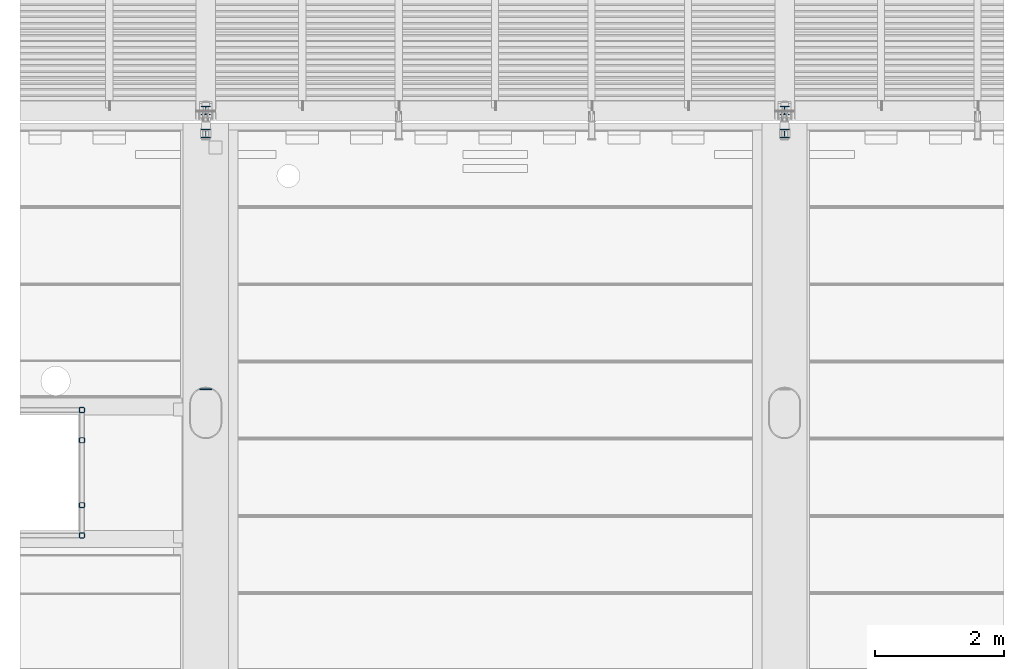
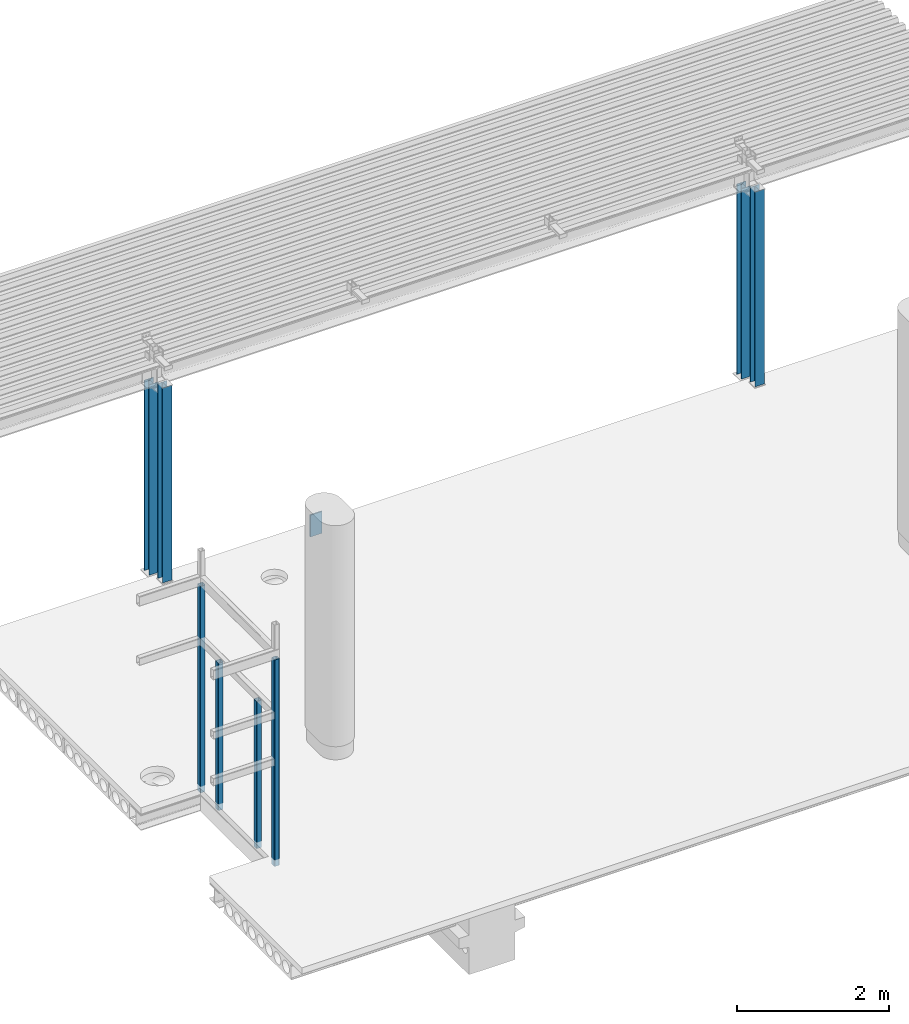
# One storey, part 1 of 34: 9 columns.
"""IFC2X3 building model written with IfcOpenShell, lengths in millimetres."""

from ifc_helpers import new_model, entity, si_unit, converted_unit, derived_unit, direction, frame, origin_with_axes, origin_2d_with_axis, place, context, subcontext, project, spatial, rectangle, hollow_rectangle, i_section, extrude, clip, halfspace, material, type_object, element, save


model = new_model("IFC2X3")

# Units and contexts
model_context = context("Model", 3, precision=0.01, world=frame((0.0, 4.29681676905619e-09, 0.0)), true_north=direction((4.01073788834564e-13, 1.0)))
plan_context = context("Plan", 3, precision=0.01, world=frame((0.0, 4.29681676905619e-09, 0.0)), true_north=direction((4.01073788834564e-13, 1.0)))
body_context = subcontext(model_context, "Body", "Model", "MODEL_VIEW")
ifc_project = project(units=[converted_unit("PLANEANGLEUNIT", "DEGREE", entity("IfcPositiveLengthMeasure", 0.0174532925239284), si_unit("PLANEANGLEUNIT", "RADIAN"), dimensions=[0, 0, 0, 0, 0, 0, 0]), si_unit("AREAUNIT", "SQUARE_METRE"), si_unit("LENGTHUNIT", "METRE", prefix="MILLI"), si_unit("MASSUNIT", "GRAM", prefix="KILO"), si_unit("POWERUNIT", "WATT"), si_unit("PRESSUREUNIT", "PASCAL"), si_unit("FORCEUNIT", "NEWTON", prefix="KILO"), si_unit("ELECTRICVOLTAGEUNIT", "VOLT"), si_unit("ELECTRICCURRENTUNIT", "AMPERE"), si_unit("THERMODYNAMICTEMPERATUREUNIT", "DEGREE_CELSIUS"), si_unit("TIMEUNIT", "SECOND"), si_unit("VOLUMEUNIT", "CUBIC_METRE"), derived_unit("LINEARVELOCITYUNIT", [(si_unit("LENGTHUNIT", "METRE"), 1), (si_unit("TIMEUNIT", "SECOND"), -1)]), derived_unit("VOLUMETRICFLOWRATEUNIT", [(si_unit("VOLUMEUNIT", "CUBIC_METRE"), 1), (si_unit("TIMEUNIT", "SECOND"), -1)]), derived_unit("THERMALTRANSMITTANCEUNIT", [(si_unit("POWERUNIT", "WATT"), 1), (si_unit("THERMODYNAMICTEMPERATUREUNIT", "KELVIN"), -1), (si_unit("AREAUNIT", "SQUARE_METRE"), -1)]), derived_unit("SOUNDPRESSUREUNIT", [(si_unit("PRESSUREUNIT", "PASCAL"), 1)])], contexts=[model_context, plan_context])

# Site, building, storey
site_placement = place(None, frame((0.0, -4.29681676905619e-09, 0.0), z_axis=(0.0, 0.0, 1.0), x_axis=(1.0, 0.0, 0.0)))
site = spatial("IfcSite", under=ifc_project, at=site_placement, Name="Gardermoen", CompositionType="ELEMENT")
building_placement = place(site_placement, frame((0.0, 4.29681676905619e-09, 0.0), z_axis=(0.0, 0.0, 1.0), x_axis=(1.0, 0.0, 0.0)))
building = spatial("IfcBuilding", under=site, at=building_placement, Name="TH", CompositionType="ELEMENT")
storey_placement = place(building_placement, origin_with_axes())
storey = spatial("IfcBuildingStorey", under=building, at=storey_placement, Name="F", CompositionType="ELEMENT", Elevation=0.0)

# Columns
ifc_material = material(Name="STEEL/S355")
column_type_1 = type_object("IfcColumnType", Name="HEA140", PredefinedType="NOTDEFINED")
for number, where, z_axis, x_axis in (
    (1, (907000.000000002, 484999.995625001, 210040.0), (0.0, 0.0, 1.0), (0.0, 1.0, 0.0)),
    (2, (898000.000000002, 484999.995625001, 210040.0), (0.0, 0.0, 1.0), (0.0, 1.0, 0.0)),
):
    element("IfcColumn", number, at=place(storey_placement, frame(where, z_axis=z_axis, x_axis=x_axis)), inside=storey, type_object=column_type_1, material=ifc_material, Name="STÅLSØYLE", ObjectType="HEA140", context=body_context, shape_type="Clipping", body=[
        clip(clip(extrude(i_section(OverallWidth=140.0, OverallDepth=133.0, WebThickness=5.5, FlangeThickness=8.5, FilletRadius=12.0, at=origin_2d_with_axis()), frame((0.0, 0.0, 3068.0), z_axis=(-3.99999553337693e-08, 0.0, -0.999999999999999), x_axis=(0.0, 1.0, 0.0)), (0.0, 0.0, 1.0), 3056.0), halfspace(frame((-66.5, 0.0, 3068.0), z_axis=(-3.99999553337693e-08, 0.0, -0.999999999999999), x_axis=(0.0, -1.0, 0.0)), True)), halfspace(frame((-66.5, 0.0, 12.0), z_axis=(0.0, 0.0, 1.0), x_axis=(0.0, 1.0, 0.0)), True)),
    ])
for number, where, z_axis, x_axis in (
    (3, (906999.999766, 484642.0, 210130.0), (0.0, 0.0, 1.0), (0.0, 1.0, 0.0)),
    (4, (897999.999766, 484642.0, 210130.0), (0.0, 0.0, 1.0), (0.0, 1.0, 0.0)),
):
    element("IfcColumn", number, at=place(storey_placement, frame(where, z_axis=z_axis, x_axis=x_axis)), inside=storey, type_object=column_type_1, material=ifc_material, Name="STÅLSØYLE", ObjectType="HEA140", context=body_context, shape_type="Clipping", body=[
        clip(clip(extrude(i_section(OverallWidth=140.0, OverallDepth=133.0, WebThickness=5.5, FlangeThickness=8.5, FilletRadius=12.0, at=origin_2d_with_axis()), frame((0.0, 0.0, 3143.0), z_axis=(-3.99999553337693e-08, 0.0, -0.999999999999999), x_axis=(0.0, 1.0, 0.0)), (0.0, 0.0, 1.0), 3128.0), halfspace(frame((-66.5, 0.0, 3143.0), z_axis=(-3.99999553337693e-08, 0.0, -0.999999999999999), x_axis=(0.0, -1.0, 0.0)), True)), halfspace(frame((-66.5, 0.0, 15.0), z_axis=(0.0, 0.0, 1.0), x_axis=(0.0, 1.0, 0.0)), True)),
    ])
column_type_2 = type_object("IfcColumnType", Name="RHS80*80*5", PredefinedType="NOTDEFINED")
for number, where, z_axis, x_axis in (
    (5, (896074.999766, 479875.0, 210025.0), (0.0, 0.0, 1.0), (1.0, 0.0, 0.0)),
    (6, (896074.999766, 478865.0, 210025.0), (0.0, 0.0, 1.0), (1.0, 0.0, 0.0)),
):
    element("IfcColumn", number, at=place(storey_placement, frame(where, z_axis=z_axis, x_axis=x_axis)), inside=storey, type_object=column_type_2, material=ifc_material, Name="STÅLSØYLE", ObjectType="RHS80*80*5", context=body_context, shape_type="SweptSolid", body=[
        extrude(hollow_rectangle(XDim=80.0, YDim=80.0, WallThickness=5.0, InnerFilletRadius=7.5, OuterFilletRadius=12.5, at=origin_2d_with_axis()), frame((0.0, 0.0, 2365.0), z_axis=(-3.99999553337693e-08, 0.0, -0.999999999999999), x_axis=(0.0, 1.0, 0.0)), (0.0, 0.0, 1.0), 2365.0),
    ])
for number, where, z_axis, x_axis in (
    (7, (896074.999766, 478395.0, 210025.0), (0.0, 0.0, 1.0), (1.0, 0.0, 0.0)),
    (8, (896074.999766, 480345.0, 210025.0), (0.0, 0.0, 1.0), (1.0, 0.0, 0.0)),
):
    element("IfcColumn", number, at=place(storey_placement, frame(where, z_axis=z_axis, x_axis=x_axis)), inside=storey, type_object=column_type_2, material=ifc_material, Name="STÅLSØYLE", ObjectType="RHS80*80*5", context=body_context, shape_type="SweptSolid", body=[
        extrude(hollow_rectangle(XDim=80.0, YDim=80.0, WallThickness=5.0, InnerFilletRadius=7.5, OuterFilletRadius=12.5, at=origin_2d_with_axis()), frame((0.0, 0.0, 3315.0), z_axis=(-3.99999553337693e-08, 0.0, -0.999999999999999), x_axis=(0.0, 1.0, 0.0)), (0.0, 0.0, 1.0), 3315.0),
    ])
column_type_3 = type_object("IfcColumnType", Name="PL20*180", PredefinedType="NOTDEFINED")
column_placement = place(storey_placement, frame((897999.999531, 480668.9956241, 213264.502668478), z_axis=(6.61744490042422e-24, 0.0, 1.0), x_axis=(-1.0, 0.0, 6.61744490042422e-24)))
element("IfcColumn", 9, at=column_placement, inside=storey, type_object=column_type_3, material=ifc_material, Name="INNSTØPNGODS", ObjectType="PL20*180", context=body_context, shape_type="SweptSolid", body=[
    extrude(rectangle(XDim=20.0, YDim=180.0, at=origin_2d_with_axis()), frame((0.0, 0.0, 350.000000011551), z_axis=(-3.99999553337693e-08, 0.0, -0.999999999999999), x_axis=(0.0, 1.0, 0.0)), (0.0, 0.0, 1.0), 350.0),
])

save(model, "model.ifc")
